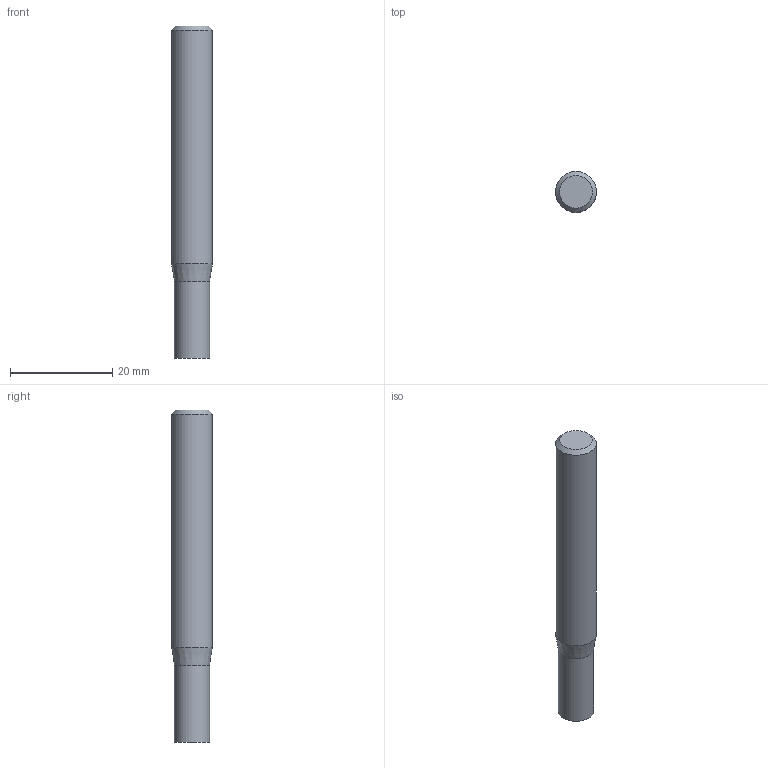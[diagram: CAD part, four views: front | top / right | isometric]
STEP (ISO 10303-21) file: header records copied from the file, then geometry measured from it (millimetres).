
FILE_DESCRIPTION((''),'2;1');
FILE_NAME('C:\Users\nsx150\AppData\Local\Temp\Mastercam 2021\98T1Q6BTT1\TEMP.step','2021-10-21T14:49:16',(''),(''),'STEP Write','Mastercam 2021 ... CNC Software, Inc.','');
FILE_SCHEMA(('AUTOMOTIVE_DESIGN'));
Length unit declared in the file: millimetre
Products named in the file (1): None
Bounding box: 8 x 8 x 65 mm (x, y, z)
Volume: 3043.8 mm3; surface area: 1726.6 mm2
Topology: 2 solids, 2 shells, 8 faces, 10 edges, 6 vertices
Faces by surface type: plane 4, cylinder 2, cone 2
Full cylindrical faces by diameter (mm): 6.9 x1, 8 x1
Entity records: 190 total; most frequent: DIRECTION 32, CARTESIAN_POINT 22, AXIS2_PLACEMENT_3D 16, ORIENTED_EDGE 12, EDGE_LOOP 12, STYLED_ITEM 11, ADVANCED_FACE 8, VERTEX_POINT 6
